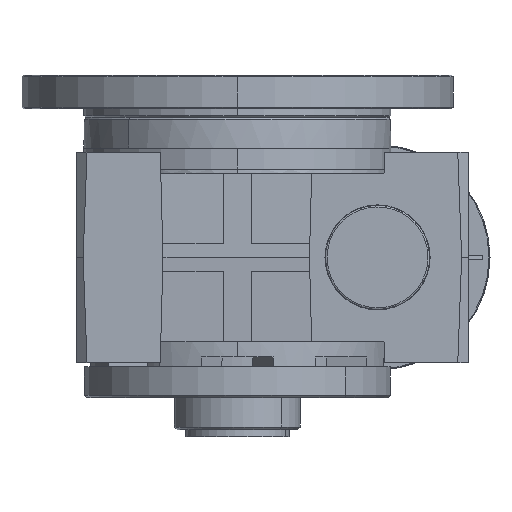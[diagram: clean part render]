
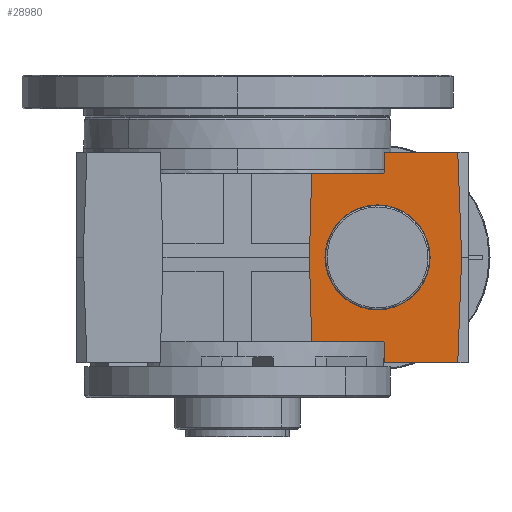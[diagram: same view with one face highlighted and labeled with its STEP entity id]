
A CAD part, left-side view. The second image highlights one B-rep face of the part: STEP entity #28980.
In plain terms, the highlighted planar face has unit normal (-1, 0, 0).
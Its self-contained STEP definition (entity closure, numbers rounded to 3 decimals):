
#449 = VECTOR ( 'NONE', #26032, 1000. ) ;
#991 = VECTOR ( 'NONE', #43476, 1000. ) ;
#2196 = LINE ( 'NONE', #24190, #35001 ) ;
#2539 = VERTEX_POINT ( 'NONE', #9040 ) ;
#2588 = CARTESIAN_POINT ( 'NONE',  ( -115., -53., 60. ) ) ;
#2791 = CIRCLE ( 'NONE', #18706, 37.5 ) ;
#3195 = VECTOR ( 'NONE', #46805, 1000. ) ;
#4008 = DIRECTION ( 'NONE',  ( 0., -1., 0. ) ) ;
#5947 = VERTEX_POINT ( 'NONE', #57324 ) ;
#6367 = PLANE ( 'NONE',  #18811 ) ;
#6825 = ORIENTED_EDGE ( 'NONE', *, *, #45038, .T. ) ;
#8420 = LINE ( 'NONE', #21637, #449 ) ;
#8906 = ORIENTED_EDGE ( 'NONE', *, *, #34258, .F. ) ;
#9040 = CARTESIAN_POINT ( 'NONE',  ( -115., -53., -60. ) ) ;
#9222 = VECTOR ( 'NONE', #23885, 1000. ) ;
#9347 = CARTESIAN_POINT ( 'NONE',  ( -115., -100., 0. ) ) ;
#9500 = CARTESIAN_POINT ( 'NONE',  ( -115., -51.429, 0. ) ) ;
#10665 = DIRECTION ( 'NONE',  ( 0., 0.026, 1. ) ) ;
#11771 = EDGE_CURVE ( 'NONE', #5947, #53773, #43599, .T. ) ;
#12210 = EDGE_CURVE ( 'NONE', #54073, #24672, #20066, .T. ) ;
#14277 = VECTOR ( 'NONE', #10665, 1000. ) ;
#15489 = EDGE_CURVE ( 'NONE', #53773, #49557, #2196, .T. ) ;
#16429 = CARTESIAN_POINT ( 'NONE',  ( -115., -100., 0. ) ) ;
#16517 = ORIENTED_EDGE ( 'NONE', *, *, #11771, .F. ) ;
#17009 = EDGE_CURVE ( 'NONE', #44972, #23862, #2791, .T. ) ;
#17868 = DIRECTION ( 'NONE',  ( 0., -1., 0. ) ) ;
#18706 = AXIS2_PLACEMENT_3D ( 'NONE', #9347, #28914, #17868 ) ;
#18811 = AXIS2_PLACEMENT_3D ( 'NONE', #37491, #24265, #32796 ) ;
#19168 = CARTESIAN_POINT ( 'NONE',  ( -115., -160., 0. ) ) ;
#19773 = LINE ( 'NONE', #50002, #57248 ) ;
#19887 = FACE_OUTER_BOUND ( 'NONE', #37973, .T. ) ;
#20066 = LINE ( 'NONE', #37960, #9222 ) ;
#20228 = CARTESIAN_POINT ( 'NONE',  ( -115., -105., 75. ) ) ;
#21255 = CARTESIAN_POINT ( 'NONE',  ( -115., -62.5, 0. ) ) ;
#21504 = CARTESIAN_POINT ( 'NONE',  ( -115., -105., -75. ) ) ;
#21637 = CARTESIAN_POINT ( 'NONE',  ( -115., -53., -60. ) ) ;
#21843 = EDGE_CURVE ( 'NONE', #34020, #48316, #29044, .T. ) ;
#21927 = CARTESIAN_POINT ( 'NONE',  ( -115., -157.223, 75. ) ) ;
#23458 = ORIENTED_EDGE ( 'NONE', *, *, #37556, .T. ) ;
#23862 = VERTEX_POINT ( 'NONE', #21255 ) ;
#23885 = DIRECTION ( 'NONE',  ( 0., 0.037, -0.999 ) ) ;
#24190 = CARTESIAN_POINT ( 'NONE',  ( -115., -104.607, 60. ) ) ;
#24265 = DIRECTION ( 'NONE',  ( -1., 0., 0. ) ) ;
#24672 = VERTEX_POINT ( 'NONE', #28062 ) ;
#24674 = AXIS2_PLACEMENT_3D ( 'NONE', #16429, #31090, #53075 ) ;
#26032 = DIRECTION ( 'NONE',  ( 0., 1., 0. ) ) ;
#28062 = CARTESIAN_POINT ( 'NONE',  ( -115., -157.223, -75. ) ) ;
#28147 = CARTESIAN_POINT ( 'NONE',  ( -115., -105., 75. ) ) ;
#28914 = DIRECTION ( 'NONE',  ( -1., 0., 0. ) ) ;
#28980 = ADVANCED_FACE ( 'NONE', ( #33366, #19887 ), #6367, .T. ) ;
#29044 = LINE ( 'NONE', #20228, #56954 ) ;
#30142 = ORIENTED_EDGE ( 'NONE', *, *, #12210, .F. ) ;
#31002 = LINE ( 'NONE', #9500, #14277 ) ;
#31090 = DIRECTION ( 'NONE',  ( -1., 0., 0. ) ) ;
#32242 = EDGE_CURVE ( 'NONE', #2539, #5947, #31002, .T. ) ;
#32758 = EDGE_CURVE ( 'NONE', #23862, #44972, #34987, .T. ) ;
#32764 = CARTESIAN_POINT ( 'NONE',  ( -115., -104.607, -60. ) ) ;
#32796 = DIRECTION ( 'NONE',  ( 0., -1., 0. ) ) ;
#32861 = VECTOR ( 'NONE', #4008, 1000. ) ;
#33088 = ORIENTED_EDGE ( 'NONE', *, *, #33487, .F. ) ;
#33126 = CARTESIAN_POINT ( 'NONE',  ( -115., -104.607, 60. ) ) ;
#33206 = CARTESIAN_POINT ( 'NONE',  ( -115., -137.5, 0. ) ) ;
#33366 = FACE_BOUND ( 'NONE', #36442, .T. ) ;
#33381 = ORIENTED_EDGE ( 'NONE', *, *, #32242, .F. ) ;
#33487 = EDGE_CURVE ( 'NONE', #39303, #38725, #51485, .T. ) ;
#33563 = VECTOR ( 'NONE', #57938, 1000. ) ;
#34020 = VERTEX_POINT ( 'NONE', #28147 ) ;
#34258 = EDGE_CURVE ( 'NONE', #38725, #2539, #8420, .T. ) ;
#34925 = ORIENTED_EDGE ( 'NONE', *, *, #46591, .F. ) ;
#34987 = CIRCLE ( 'NONE', #24674, 37.5 ) ;
#35001 = VECTOR ( 'NONE', #46237, 1000. ) ;
#35434 = ORIENTED_EDGE ( 'NONE', *, *, #15489, .F. ) ;
#36442 = EDGE_LOOP ( 'NONE', ( #38425, #43549 ) ) ;
#37491 = CARTESIAN_POINT ( 'NONE',  ( -115., 115., -75. ) ) ;
#37556 = EDGE_CURVE ( 'NONE', #39303, #24672, #44213, .T. ) ;
#37675 = DIRECTION ( 'NONE',  ( 0., -0.026, 1. ) ) ;
#37960 = CARTESIAN_POINT ( 'NONE',  ( -115., -156.85, -85.067 ) ) ;
#37973 = EDGE_LOOP ( 'NONE', ( #30142, #6825, #41613, #34925, #35434, #16517, #33381, #8906, #33088, #23458 ) ) ;
#38425 = ORIENTED_EDGE ( 'NONE', *, *, #32758, .F. ) ;
#38725 = VERTEX_POINT ( 'NONE', #32764 ) ;
#39303 = VERTEX_POINT ( 'NONE', #21504 ) ;
#41613 = ORIENTED_EDGE ( 'NONE', *, *, #21843, .F. ) ;
#42603 = LINE ( 'NONE', #56374, #991 ) ;
#43476 = DIRECTION ( 'NONE',  ( 0., 0.037, 0.999 ) ) ;
#43549 = ORIENTED_EDGE ( 'NONE', *, *, #17009, .F. ) ;
#43599 = LINE ( 'NONE', #43861, #33563 ) ;
#43861 = CARTESIAN_POINT ( 'NONE',  ( -115., -53., 60. ) ) ;
#44213 = LINE ( 'NONE', #49181, #32861 ) ;
#44972 = VERTEX_POINT ( 'NONE', #33206 ) ;
#45038 = EDGE_CURVE ( 'NONE', #54073, #48316, #42603, .T. ) ;
#46237 = DIRECTION ( 'NONE',  ( 0., -1., 0. ) ) ;
#46591 = EDGE_CURVE ( 'NONE', #49557, #34020, #19773, .T. ) ;
#46805 = DIRECTION ( 'NONE',  ( 0., 0.026, 1. ) ) ;
#48316 = VERTEX_POINT ( 'NONE', #21927 ) ;
#49181 = CARTESIAN_POINT ( 'NONE',  ( -115., -105., -75. ) ) ;
#49557 = VERTEX_POINT ( 'NONE', #33126 ) ;
#50002 = CARTESIAN_POINT ( 'NONE',  ( -115., -105., 75. ) ) ;
#50631 = CARTESIAN_POINT ( 'NONE',  ( -115., -105., -75. ) ) ;
#51485 = LINE ( 'NONE', #50631, #3195 ) ;
#53075 = DIRECTION ( 'NONE',  ( 0., -1., 0. ) ) ;
#53773 = VERTEX_POINT ( 'NONE', #2588 ) ;
#54073 = VERTEX_POINT ( 'NONE', #19168 ) ;
#56374 = CARTESIAN_POINT ( 'NONE',  ( -115., -162.397, -64.727 ) ) ;
#56630 = DIRECTION ( 'NONE',  ( 0., -1., 0. ) ) ;
#56954 = VECTOR ( 'NONE', #56630, 1000. ) ;
#57248 = VECTOR ( 'NONE', #37675, 1000. ) ;
#57324 = CARTESIAN_POINT ( 'NONE',  ( -115., -51.429, 0. ) ) ;
#57938 = DIRECTION ( 'NONE',  ( 0., -0.026, 1. ) ) ;
